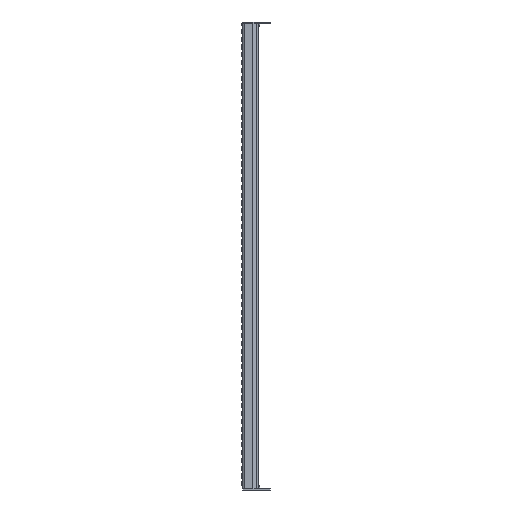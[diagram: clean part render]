
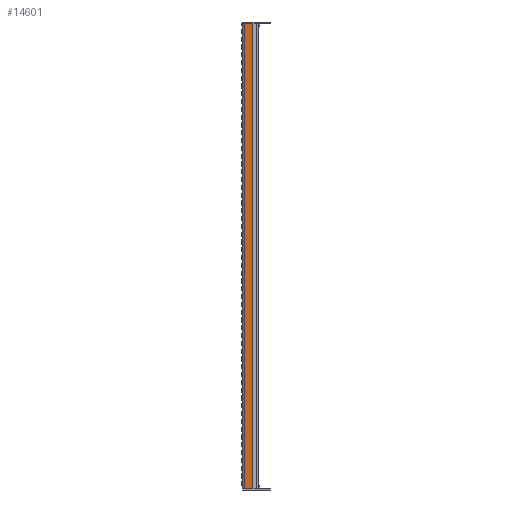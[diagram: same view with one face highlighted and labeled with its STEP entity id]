
A CAD part, left-side view. The second image highlights one B-rep face of the part: STEP entity #14601.
In plain terms, the highlighted planar face has unit normal (-1, 0, 0).
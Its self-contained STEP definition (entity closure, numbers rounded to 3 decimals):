
#2561=FACE_OUTER_BOUND('',#3810,.T.);
#3810=EDGE_LOOP('',(#12891,#12892,#12893,#12894));
#4887=LINE('',#29137,#6067);
#4898=LINE('',#29167,#6078);
#4908=LINE('',#29190,#6088);
#4915=LINE('',#29205,#6095);
#6067=VECTOR('',#20011,10.);
#6078=VECTOR('',#20036,10.);
#6088=VECTOR('',#20058,10.);
#6095=VECTOR('',#20077,10.);
#7430=VERTEX_POINT('',#29134);
#7431=VERTEX_POINT('',#29136);
#7443=VERTEX_POINT('',#29166);
#7450=VERTEX_POINT('',#29189);
#9257=EDGE_CURVE('',#7431,#7430,#4887,.T.);
#9272=EDGE_CURVE('',#7430,#7443,#4898,.T.);
#9284=EDGE_CURVE('',#7450,#7431,#4908,.T.);
#9292=EDGE_CURVE('',#7443,#7450,#4915,.T.);
#12891=ORIENTED_EDGE('',*,*,#9272,.T.);
#12892=ORIENTED_EDGE('',*,*,#9292,.T.);
#12893=ORIENTED_EDGE('',*,*,#9284,.T.);
#12894=ORIENTED_EDGE('',*,*,#9257,.T.);
#13675=PLANE('',#16200);
#14601=ADVANCED_FACE('',(#2561),#13675,.T.);
#16200=AXIS2_PLACEMENT_3D('',#29206,#20078,#20079);
#20011=DIRECTION('',(0.,1.,0.));
#20036=DIRECTION('',(0.,0.,-1.));
#20058=DIRECTION('',(0.,0.,1.));
#20077=DIRECTION('',(0.,-1.,0.));
#20078=DIRECTION('center_axis',(-1.,0.,0.));
#20079=DIRECTION('ref_axis',(0.,0.,1.));
#29134=CARTESIAN_POINT('',(0.,-3.25,1194.));
#29136=CARTESIAN_POINT('',(0.,-24.427,1194.));
#29137=CARTESIAN_POINT('',(0.,0.,1194.));
#29166=CARTESIAN_POINT('',(0.,-3.25,0.));
#29167=CARTESIAN_POINT('',(0.,-3.25,0.));
#29189=CARTESIAN_POINT('',(0.,-24.427,0.));
#29190=CARTESIAN_POINT('',(0.,-24.427,298.5));
#29205=CARTESIAN_POINT('',(0.,0.,0.));
#29206=CARTESIAN_POINT('Origin',(0.,-25.,0.));
